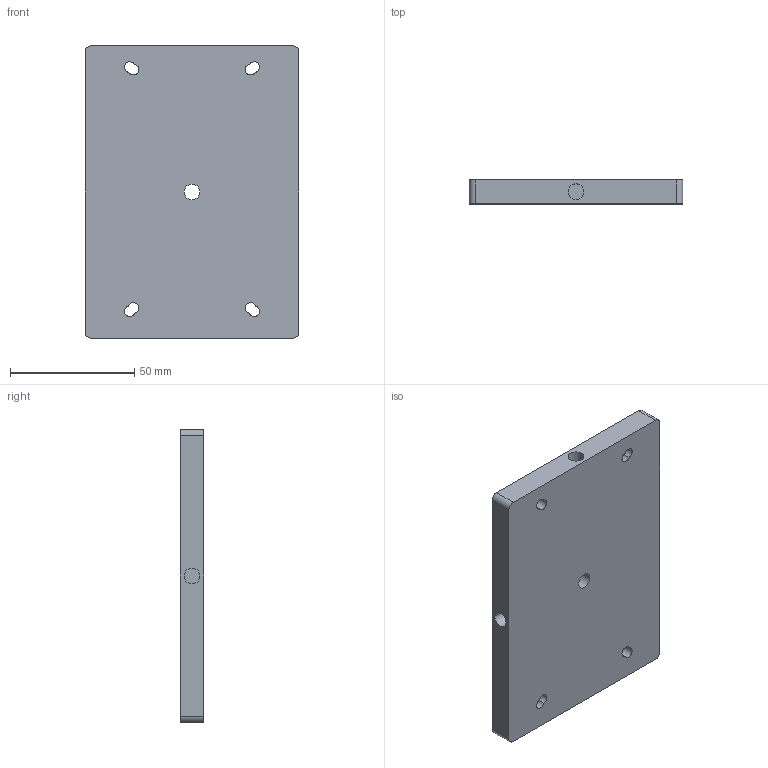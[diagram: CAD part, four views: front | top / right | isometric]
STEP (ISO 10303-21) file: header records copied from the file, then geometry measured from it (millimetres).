
FILE_DESCRIPTION((''),'2;1');
FILE_NAME('MOUNT_TRIPOD_ADPT_SEVERRA','2011-09-30T',('dkendric'),(''),'PRO/ENGINEER BY PARAMETRIC TECHNOLOGY CORPORATION, 2010230','PRO/ENGINEER BY PARAMETRIC TECHNOLOGY CORPORATION, 2010230','');
FILE_SCHEMA(('CONFIG_CONTROL_DESIGN'));
Length unit declared in the file: inch
Products named in the file (1): MOUNT_TRIPOD_ADPT_SEVERRA
Bounding box: 85.85 x 9.53 x 117.6 mm (x, y, z)
Volume: 93109.5 mm3; surface area: 25573.9 mm2
Topology: 1 solids, 1 shells, 40 faces, 94 edges, 60 vertices
Faces by surface type: cylinder 22, plane 10, cone 8
Entity records: 1285 total; most frequent: CARTESIAN_POINT 269, DIRECTION 218, ORIENTED_EDGE 188, EDGE_CURVE 94, AXIS2_PLACEMENT_3D 92, VERTEX_POINT 60, EDGE_LOOP 54, CIRCLE 52
